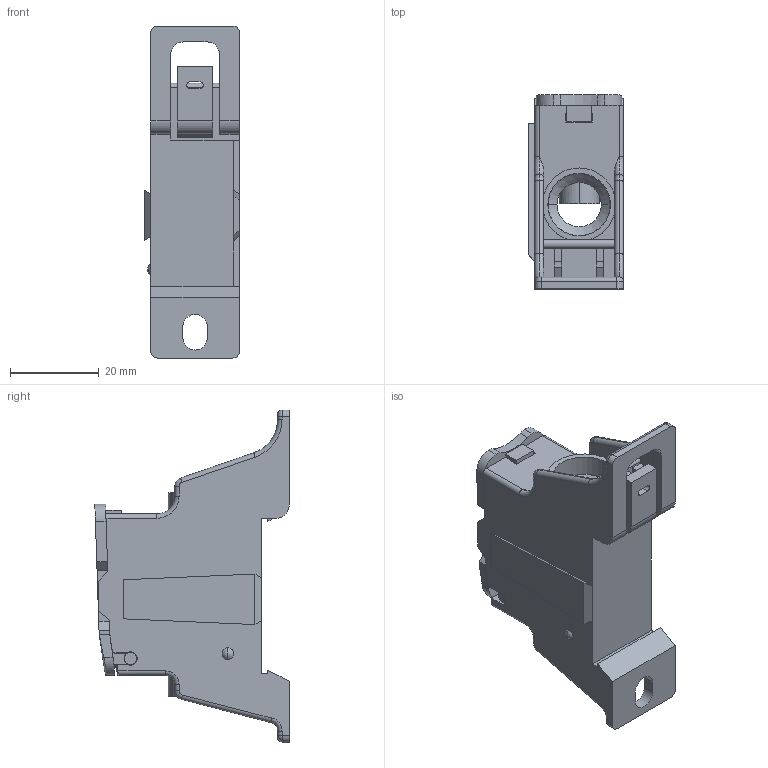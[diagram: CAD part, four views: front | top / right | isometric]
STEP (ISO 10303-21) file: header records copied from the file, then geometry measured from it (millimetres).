
FILE_DESCRIPTION (( 'STEP AP203' ), '1' );
FILE_NAME ('BDA125-1.STEP', '2018-08-10T19:58:05', ( '' ), ( '' ), 'SwSTEP 2.0', 'SolidWorks 2012', '' );
FILE_SCHEMA (( 'CONFIG_CONTROL_DESIGN' ));
Length unit declared in the file: millimetre
Products named in the file (1): BDA125-1
Bounding box: 21.4 x 43.77 x 74.8 mm (x, y, z)
Volume: 23491.7 mm3; surface area: 14722.8 mm2
Topology: 1 solids, 1 shells, 283 faces, 770 edges, 493 vertices
Faces by surface type: plane 148, cylinder 93, torus 30, bspline 6, cone 4, sphere 2
Entity records: 9474 total; most frequent: CARTESIAN_POINT 2224, ORIENTED_EDGE 1540, DIRECTION 1469, EDGE_CURVE 770, VERTEX_POINT 493, AXIS2_PLACEMENT_3D 492, VECTOR 485, LINE 485
